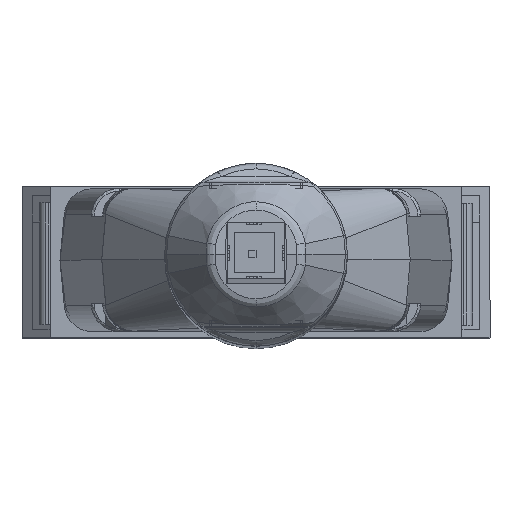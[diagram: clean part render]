
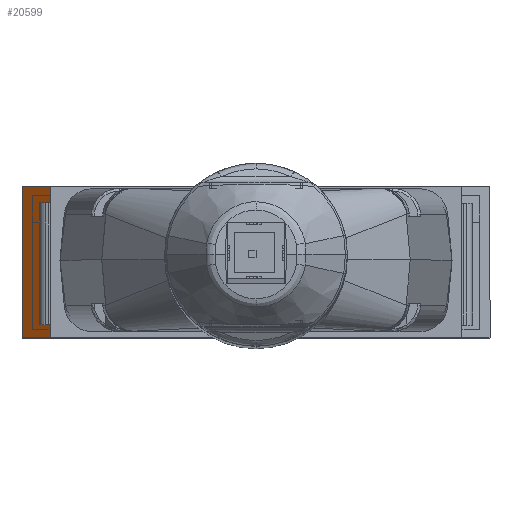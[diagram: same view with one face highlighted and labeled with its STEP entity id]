
A CAD part, top view. The second image highlights one B-rep face of the part: STEP entity #20599.
In plain terms, the highlighted planar face has unit normal (-0.664, 0, 0.747).
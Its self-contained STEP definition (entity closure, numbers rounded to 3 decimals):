
#456 = ORIENTED_EDGE ( 'NONE', *, *, #25980, .F. ) ;
#670 = PLANE ( 'NONE',  #12137 ) ;
#828 = VERTEX_POINT ( 'NONE', #24060 ) ;
#1050 = DIRECTION ( 'NONE',  ( -0.747, 0., -0.664 ) ) ;
#1199 = CARTESIAN_POINT ( 'NONE',  ( -13.208, -4.877, -194.516 ) ) ;
#1323 = LINE ( 'NONE', #16314, #10715 ) ;
#1471 = LINE ( 'NONE', #20583, #28336 ) ;
#1544 = DIRECTION ( 'NONE',  ( 0., 1., 0. ) ) ;
#2305 = DIRECTION ( 'NONE',  ( 0.747, 0., 0.664 ) ) ;
#2632 = EDGE_CURVE ( 'Defeatured_0_371+Defeatured_0_372+Defeatured_0_381+Defeatured_0_365', #20879, #828, #22401, .T. ) ;
#2793 = DIRECTION ( 'NONE',  ( -0.747, 0., -0.664 ) ) ;
#2941 = EDGE_CURVE ( 'Defeatured_0_379+Defeatured_0_372+Defeatured_0_369+Defeatured_0_373', #5648, #21084, #20967, .T. ) ;
#3309 = EDGE_CURVE ( 'Defeatured_0_373+Defeatured_0_372+Defeatured_0_379+Defeatured_0_381', #21084, #17391, #20199, .T. ) ;
#3545 = VECTOR ( 'NONE', #6132, 1000. ) ;
#3826 = CARTESIAN_POINT ( 'NONE',  ( -13.208, 5.258, -194.516 ) ) ;
#3864 = ORIENTED_EDGE ( 'NONE', *, *, #2941, .F. ) ;
#4005 = ORIENTED_EDGE ( 'NONE', *, *, #26873, .F. ) ;
#5058 = VERTEX_POINT ( 'NONE', #15601 ) ;
#5261 = ORIENTED_EDGE ( 'NONE', *, *, #16625, .F. ) ;
#5312 = VECTOR ( 'NONE', #1544, 1000. ) ;
#5343 = LINE ( 'NONE', #12413, #15892 ) ;
#5648 = VERTEX_POINT ( 'NONE', #21454 ) ;
#6132 = DIRECTION ( 'NONE',  ( 0., -1., 0. ) ) ;
#6800 = VECTOR ( 'NONE', #7888, 1000. ) ;
#7101 = DIRECTION ( 'NONE',  ( 0., 1., 0. ) ) ;
#7733 = VECTOR ( 'NONE', #18626, 1000. ) ;
#7888 = DIRECTION ( 'NONE',  ( 0.747, 0., 0.664 ) ) ;
#8690 = DIRECTION ( 'NONE',  ( 0., -1., 0. ) ) ;
#9091 = CARTESIAN_POINT ( 'NONE',  ( -16.637, 5.258, -197.564 ) ) ;
#9876 = DIRECTION ( 'NONE',  ( 0.664, 0., -0.747 ) ) ;
#10715 = VECTOR ( 'NONE', #7101, 1000. ) ;
#11995 = EDGE_CURVE ( 'Defeatured_0_365+Defeatured_0_372+Defeatured_0_371+Defeatured_0_350', #828, #14957, #21628, .T. ) ;
#12008 = CARTESIAN_POINT ( 'NONE',  ( -16.637, -5.486, -197.564 ) ) ;
#12116 = EDGE_CURVE ( 'Defeatured_0_372+Defeatured_0_369+Defeatured_0_379+Defeatured_0_363', #5648, #26420, #1323, .T. ) ;
#12137 = AXIS2_PLACEMENT_3D ( 'NONE', #14134, #9876, #26012 ) ;
#12413 = CARTESIAN_POINT ( 'NONE',  ( -13.208, 2.743, -194.516 ) ) ;
#13570 = CARTESIAN_POINT ( 'NONE',  ( -13.208, -4.877, -194.516 ) ) ;
#13704 = EDGE_CURVE ( 'Defeatured_0_352+Defeatured_0_372+Defeatured_0_351+Defeatured_0_363', #27064, #5058, #29170, .T. ) ;
#14134 = CARTESIAN_POINT ( 'NONE',  ( -16.637, -5.486, -197.564 ) ) ;
#14637 = ORIENTED_EDGE ( 'NONE', *, *, #2632, .F. ) ;
#14645 = FACE_OUTER_BOUND ( 'NONE', #25264, .T. ) ;
#14957 = VERTEX_POINT ( 'NONE', #15089 ) ;
#15089 = CARTESIAN_POINT ( 'NONE',  ( -14.262, 4.648, -195.453 ) ) ;
#15601 = CARTESIAN_POINT ( 'NONE',  ( -14.275, -4.877, -195.464 ) ) ;
#15892 = VECTOR ( 'NONE', #24936, 1000. ) ;
#16032 = CARTESIAN_POINT ( 'NONE',  ( -14.262, 2.743, -195.453 ) ) ;
#16303 = LINE ( 'NONE', #13570, #17025 ) ;
#16314 = CARTESIAN_POINT ( 'NONE',  ( -13.208, -5.486, -194.516 ) ) ;
#16625 = EDGE_CURVE ( 'Defeatured_0_350+Defeatured_0_372+Defeatured_0_365+Defeatured_0_351', #14957, #21950, #1471, .T. ) ;
#17025 = VECTOR ( 'NONE', #2305, 1000. ) ;
#17391 = VERTEX_POINT ( 'NONE', #9091 ) ;
#17538 = ORIENTED_EDGE ( 'NONE', *, *, #13704, .F. ) ;
#18139 = EDGE_CURVE ( 'Defeatured_0_381+Defeatured_0_372+Defeatured_0_373+Defeatured_0_371', #17391, #20879, #21347, .T. ) ;
#18626 = DIRECTION ( 'NONE',  ( 0., -1., 0. ) ) ;
#19086 = VECTOR ( 'NONE', #1050, 1000. ) ;
#19479 = CARTESIAN_POINT ( 'NONE',  ( -13.208, 4.648, -194.516 ) ) ;
#20199 = LINE ( 'NONE', #22705, #5312 ) ;
#20583 = CARTESIAN_POINT ( 'NONE',  ( -14.262, 4.648, -195.453 ) ) ;
#20599 = ADVANCED_FACE ( 'Defeatured_0_372', ( #14645 ), #670, .F. ) ;
#20879 = VERTEX_POINT ( 'NONE', #22487 ) ;
#20967 = LINE ( 'NONE', #12008, #29673 ) ;
#21084 = VERTEX_POINT ( 'NONE', #26454 ) ;
#21347 = LINE ( 'NONE', #28510, #6800 ) ;
#21454 = CARTESIAN_POINT ( 'NONE',  ( -13.208, -5.486, -194.516 ) ) ;
#21628 = LINE ( 'NONE', #19479, #19086 ) ;
#21950 = VERTEX_POINT ( 'NONE', #16032 ) ;
#22401 = LINE ( 'NONE', #3826, #3545 ) ;
#22487 = CARTESIAN_POINT ( 'NONE',  ( -13.208, 5.258, -194.516 ) ) ;
#22705 = CARTESIAN_POINT ( 'NONE',  ( -16.637, -5.486, -197.564 ) ) ;
#23149 = ORIENTED_EDGE ( 'NONE', *, *, #3309, .F. ) ;
#23198 = ORIENTED_EDGE ( 'NONE', *, *, #18139, .F. ) ;
#23744 = ORIENTED_EDGE ( 'NONE', *, *, #11995, .F. ) ;
#23857 = CARTESIAN_POINT ( 'NONE',  ( -14.275, 2.743, -195.464 ) ) ;
#24060 = CARTESIAN_POINT ( 'NONE',  ( -13.208, 4.648, -194.516 ) ) ;
#24936 = DIRECTION ( 'NONE',  ( -0.747, 0., -0.664 ) ) ;
#25264 = EDGE_LOOP ( 'NONE', ( #456, #17538, #4005, #5261, #23744, #14637, #23198, #23149, #3864, #28236 ) ) ;
#25445 = CARTESIAN_POINT ( 'NONE',  ( -14.275, -5.486, -195.464 ) ) ;
#25980 = EDGE_CURVE ( 'Defeatured_0_363+Defeatured_0_372+Defeatured_0_352+Defeatured_0_369', #5058, #26420, #16303, .T. ) ;
#26012 = DIRECTION ( 'NONE',  ( -0.747, 0., -0.664 ) ) ;
#26420 = VERTEX_POINT ( 'NONE', #1199 ) ;
#26454 = CARTESIAN_POINT ( 'NONE',  ( -16.637, -5.486, -197.564 ) ) ;
#26873 = EDGE_CURVE ( 'Defeatured_0_351+Defeatured_0_372+Defeatured_0_350+Defeatured_0_352', #21950, #27064, #5343, .T. ) ;
#27064 = VERTEX_POINT ( 'NONE', #23857 ) ;
#28236 = ORIENTED_EDGE ( 'NONE', *, *, #12116, .T. ) ;
#28336 = VECTOR ( 'NONE', #8690, 1000. ) ;
#28510 = CARTESIAN_POINT ( 'NONE',  ( -13.208, 5.258, -194.516 ) ) ;
#29170 = LINE ( 'NONE', #25445, #7733 ) ;
#29673 = VECTOR ( 'NONE', #2793, 1000. ) ;
